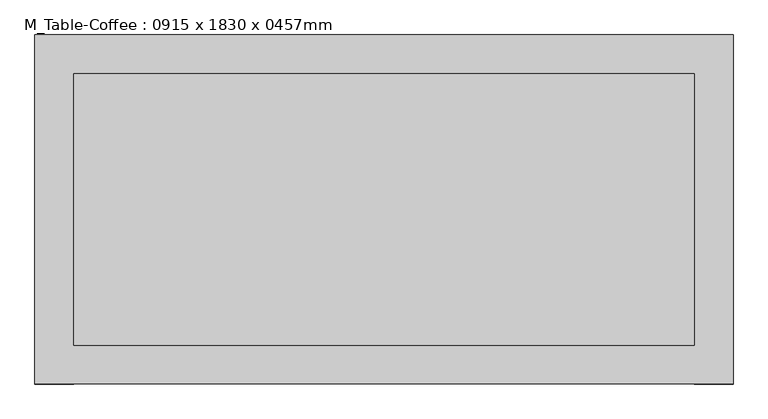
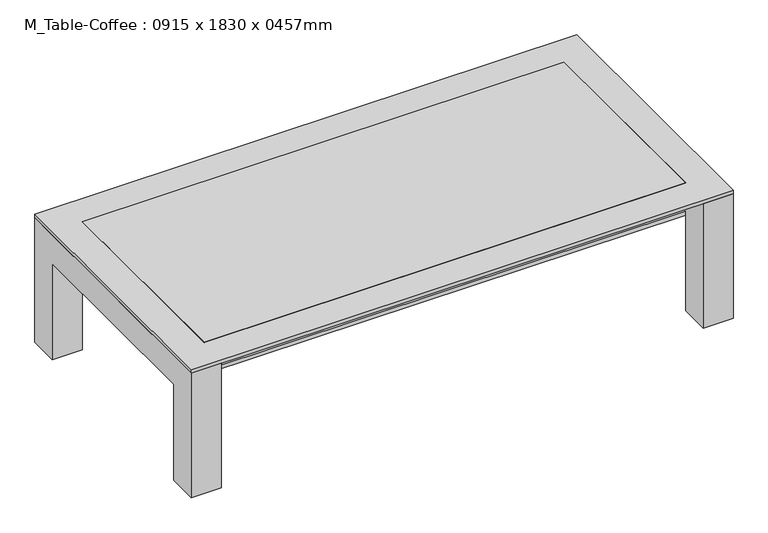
"""IFC4 building model written with IfcOpenShell, lengths in millimetres: furniture geometry, M_Table-Coffee : 0915 x 1830 x 0457mm."""

from ifc_helpers import new_model, si_unit, frame, origin, place, context, project, spatial, polyline, outline, extrude, source, transform, mapped, element, save


def m_table_coffee_0915_x_1830_x_0457mm_595c1ebd(model_context):
    return source(origin(), model_context, "Body", "SweptSolid", [
        extrude(outline(polyline([(831.6657667, -451.1110778), (-795.1342333, -451.1110778), (-795.1342333, 260.6889222), (831.6657667, 260.6889222), (831.6657667, -451.1110778)])), frame((0.0, 0.0, 342.7), z_axis=(0.0, 0.0, 1.0), x_axis=(1.0, 0.0, 0.0)), (0.0, 0.0, 1.0), 12.7),
        extrude(outline(polyline([(-552.7110778, 0.0), (-552.7110778, 444.3), (362.2889222, 444.3), (362.2889222, 0.0), (260.6889222, 0.0), (260.6889222, 342.7), (-451.1110778, 342.7), (-451.1110778, 0.0), (-552.7110778, 0.0)])), frame((831.6657667, 0.0, 0.0), z_axis=(1.0, 0.0, 0.0), x_axis=(0.0, 1.0, 0.0)), (0.0, 0.0, 1.0), 101.6),
        extrude(outline(polyline([(-552.7110778, 444.3), (362.2889222, 444.3), (362.2889222, 0.0), (260.6889222, 0.0), (260.6889222, 342.7), (-451.1110778, 342.7), (-451.1110778, 0.0), (-552.7110778, 0.0), (-552.7110778, 444.3)])), frame((-896.7342333, 0.0, 0.0), z_axis=(1.0, 0.0, 0.0), x_axis=(0.0, 1.0, 0.0)), (0.0, 0.0, 1.0), 101.6),
        extrude(outline(polyline([(831.6657667, -451.1110778), (-795.1342333, -451.1110778), (-795.1342333, 260.6889222), (831.6657667, 260.6889222), (831.6657667, -451.1110778)])), frame((0.0, 0.0, 444.3), z_axis=(0.0, 0.0, 1.0), x_axis=(1.0, 0.0, 0.0)), (0.0, 0.0, 1.0), 12.7),
        extrude(outline(polyline([(933.2657667, -552.7110778), (-896.7342333, -552.7110778), (-896.7342333, 362.2889222), (933.2657667, 362.2889222), (933.2657667, -552.7110778)]), holes=[polyline([(831.6657667, -451.1110778), (831.6657667, 260.6889222), (-795.1342333, 260.6889222), (-795.1342333, -451.1110778), (831.6657667, -451.1110778)])]), frame((0.0, 0.0, 444.3), z_axis=(0.0, 0.0, 1.0), x_axis=(1.0, 0.0, 0.0)), (0.0, 0.0, 1.0), 12.7),
    ])


if __name__ == "__main__":
    model = new_model("IFC4")
    model_context = context("Model", 3, world=origin())
    ifc_project = project(units=[si_unit("LENGTHUNIT", "METRE", prefix="MILLI")], contexts=[model_context])
    site = spatial("IfcSite", under=ifc_project)
    building = spatial("IfcBuilding", under=site)
    placement = place(None, origin())
    m_table_coffee_0915_x_1830_x_0457mm_shape = m_table_coffee_0915_x_1830_x_0457mm_595c1ebd(model_context)
    element("IfcFurniture", 1, ObjectType="M_Table-Coffee : 0915 x 1830 x 0457mm", at=placement, inside=building, context=model_context, shape_type="MappedRepresentation", body=[
        mapped(m_table_coffee_0915_x_1830_x_0457mm_shape, transform((0.0, 0.0, 0.0), x_axis=(1.0, 0.0, 0.0), y_axis=(0.0, 1.0, 0.0), z_axis=(0.0, 0.0, 1.0))),
    ])
    save(model, "model.ifc")
